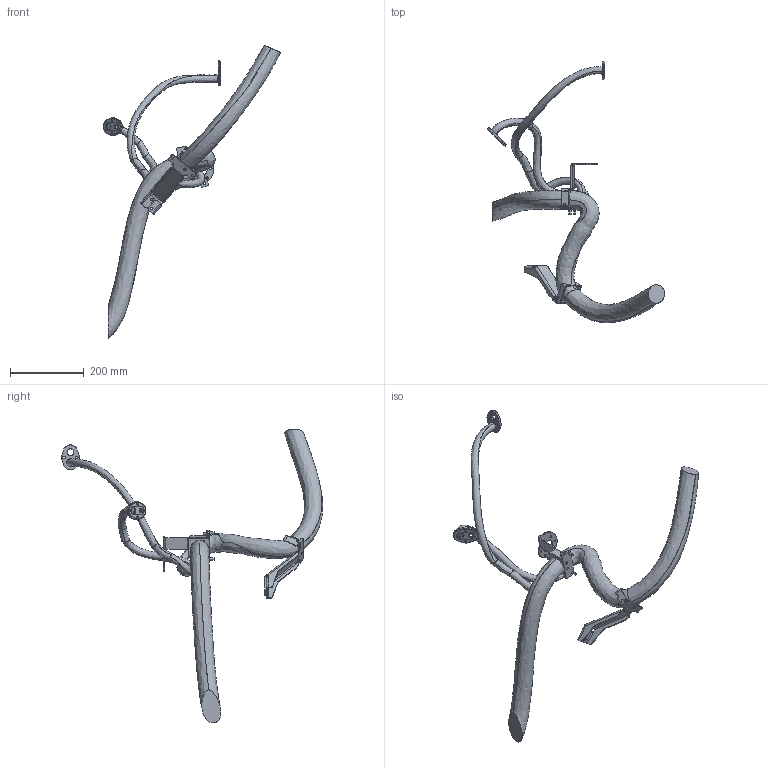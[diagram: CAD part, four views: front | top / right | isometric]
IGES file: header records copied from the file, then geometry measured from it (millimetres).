
Start section: SolidWorks IGES file using analytic representation for surfaces
Global section: file name: B:\Robotics\SEROP_PROJ\Product Development\DevelopmentProjects\RobCal\Design\CAD simuleringsmodeller\Till_RobotStudio\IRB6700-HL\IRB6700_235-265_IRC5_rev02\IRB6700_235-265_IRC5_rev02_IGES_j\IRB6700_235-265_IRC5_rev02_LINK01m_CABLE.IGS; native system: SolidWorks 2014; preprocessor: SolidWorks 2014; author: SEEMTHE; date: 160127.112523; units: millimetre
Bounding box: 481.48 x 710.57 x 797.58 mm (x, y, z)
Surface area: 351920 mm2 (no closed solid volume)
Topology: 0 solids, 0 shells, 472 faces, 8169 edges, 8169 vertices
Faces by surface type: bspline 260, revolution 212
